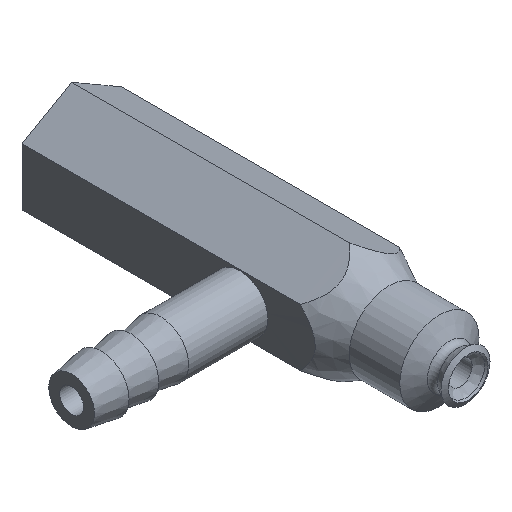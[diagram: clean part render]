
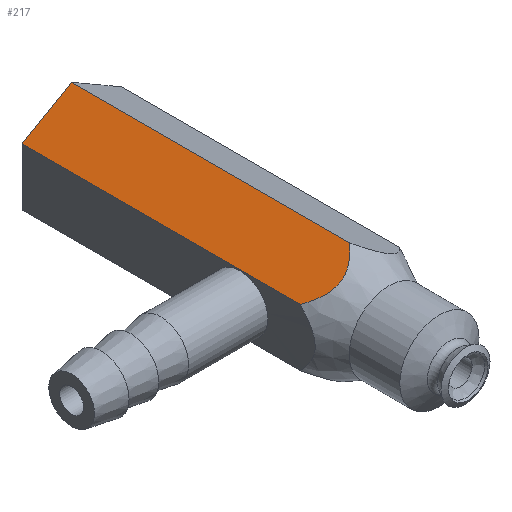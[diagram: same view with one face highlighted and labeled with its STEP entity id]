
A CAD part, isometric view. The second image highlights one B-rep face of the part: STEP entity #217.
In plain terms, the highlighted planar face has unit normal (-0.5, 0, 0.866).
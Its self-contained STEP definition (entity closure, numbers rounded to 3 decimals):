
#217=ADVANCED_FACE('',(#275),#276,.F.);
#275=FACE_OUTER_BOUND('',#408,.T.);
#276=PLANE('',#409);
#408=EDGE_LOOP('',(#600,#601,#602,#603));
#409=AXIS2_PLACEMENT_3D('',#604,#605,#606);
#600=ORIENTED_EDGE('',*,*,#832,.F.);
#601=ORIENTED_EDGE('',*,*,#833,.F.);
#602=ORIENTED_EDGE('',*,*,#819,.T.);
#603=ORIENTED_EDGE('',*,*,#812,.F.);
#604=CARTESIAN_POINT('',(-2.5,16.0,1.443));
#605=DIRECTION('',(0.5,0.0,-0.866));
#606=DIRECTION('',(0.0,-1.0,0.0));
#812=EDGE_CURVE('',#872,#873,#874,.T.);
#819=EDGE_CURVE('',#886,#873,#887,.T.);
#832=EDGE_CURVE('',#909,#872,#910,.T.);
#833=EDGE_CURVE('',#886,#909,#911,.T.);
#872=VERTEX_POINT('',#983);
#873=VERTEX_POINT('',#984);
#874=B_SPLINE_CURVE_WITH_KNOTS('',3,(#985,#986,#987,#988,#989,#990,#991,#992,#993,#994,#995,#996,#997),.UNSPECIFIED.,.F.,.F.,(4,1,1,1,1,1,1,1,1,1,4),(0.0,0.069,0.133,0.193,0.249,0.381,0.5,0.618,0.749,0.866,1.0),.UNSPECIFIED.);
#886=VERTEX_POINT('',#1069);
#887=LINE('',#1070,#1071);
#909=VERTEX_POINT('',#1100);
#910=LINE('',#1101,#1102);
#911=LINE('',#1103,#1104);
#983=CARTESIAN_POINT('',(0.0,1.974,2.887));
#984=CARTESIAN_POINT('',(-2.5,1.974,1.443));
#985=CARTESIAN_POINT('',(0.,1.974,2.887));
#986=CARTESIAN_POINT('',(-0.048,1.921,2.859));
#987=CARTESIAN_POINT('',(-0.141,1.818,2.805));
#988=CARTESIAN_POINT('',(-0.283,1.679,2.723));
#989=CARTESIAN_POINT('',(-0.421,1.558,2.643));
#990=CARTESIAN_POINT('',(-0.622,1.409,2.528));
#991=CARTESIAN_POINT('',(-0.892,1.262,2.372));
#992=CARTESIAN_POINT('',(-1.248,1.193,2.166));
#993=CARTESIAN_POINT('',(-1.605,1.26,1.96));
#994=CARTESIAN_POINT('',(-1.927,1.436,1.774));
#995=CARTESIAN_POINT('',(-2.229,1.68,1.599));
#996=CARTESIAN_POINT('',(-2.406,1.872,1.498));
#997=CARTESIAN_POINT('',(-2.5,1.974,1.443));
#1069=CARTESIAN_POINT('',(-2.5,16.0,1.443));
#1070=CARTESIAN_POINT('',(-2.5,16.0,1.443));
#1071=VECTOR('',#1181,1.0);
#1100=CARTESIAN_POINT('',(0.0,16.0,2.887));
#1101=CARTESIAN_POINT('',(0.0,16.0,2.887));
#1102=VECTOR('',#1204,1.0);
#1103=CARTESIAN_POINT('',(-2.5,16.0,1.443));
#1104=VECTOR('',#1205,1.0);
#1181=DIRECTION('',(0.0,-1.0,0.0));
#1204=DIRECTION('',(0.0,-1.0,0.0));
#1205=DIRECTION('',(0.866,0.0,0.5));
